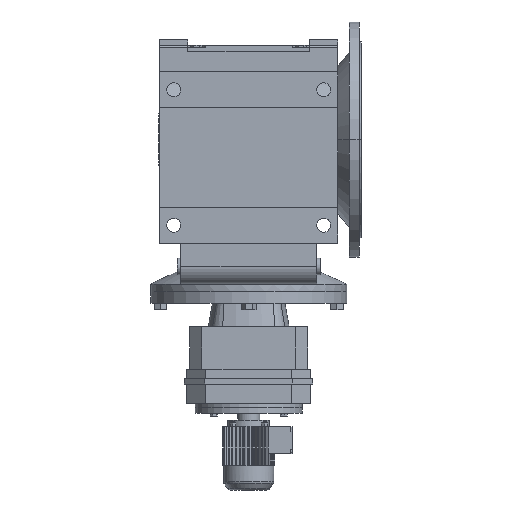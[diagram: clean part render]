
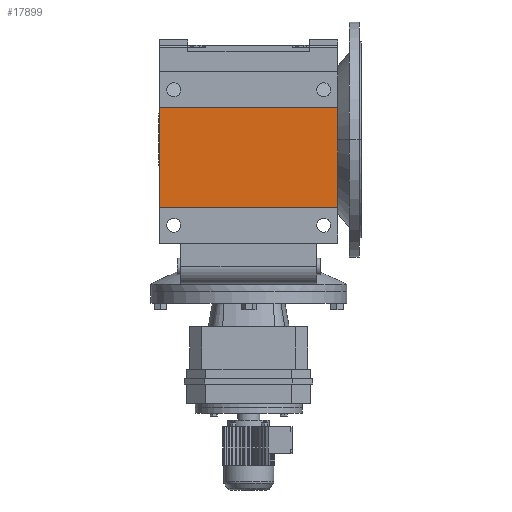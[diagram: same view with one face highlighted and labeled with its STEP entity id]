
A CAD part, front view. The second image highlights one B-rep face of the part: STEP entity #17899.
In plain terms, the highlighted planar face has unit normal (0, -1, 0).
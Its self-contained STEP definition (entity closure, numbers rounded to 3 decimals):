
#8799 = PLANE('',#8800);
#8800 = AXIS2_PLACEMENT_3D('',#8801,#8802,#8803);
#8801 = CARTESIAN_POINT('',(-250.,-380.25,226.));
#8802 = DIRECTION('',(1.,0.,0.));
#8803 = DIRECTION('',(0.,0.,-1.));
#12217 = VERTEX_POINT('',#12218);
#12218 = CARTESIAN_POINT('',(-250.,-434.25,-190.));
#12232 = PLANE('',#12233);
#12233 = AXIS2_PLACEMENT_3D('',#12234,#12235,#12236);
#12234 = CARTESIAN_POINT('',(250.,-434.25,-190.));
#12235 = DIRECTION('',(0.,0.,-1.));
#12236 = DIRECTION('',(-1.,0.,0.));
#12244 = EDGE_CURVE('',#12245,#12217,#12247,.T.);
#12245 = VERTEX_POINT('',#12246);
#12246 = CARTESIAN_POINT('',(-250.,-434.25,90.));
#12247 = SURFACE_CURVE('',#12248,(#12252,#12259),.PCURVE_S1.);
#12248 = LINE('',#12249,#12250);
#12249 = CARTESIAN_POINT('',(-250.,-434.25,90.));
#12250 = VECTOR('',#12251,1.);
#12251 = DIRECTION('',(0.,0.,-1.));
#12252 = PCURVE('',#8799,#12253);
#12253 = DEFINITIONAL_REPRESENTATION('',(#12254),#12258);
#12254 = LINE('',#12255,#12256);
#12255 = CARTESIAN_POINT('',(136.,-54.));
#12256 = VECTOR('',#12257,1.);
#12257 = DIRECTION('',(1.,0.));
#12258 = ( GEOMETRIC_REPRESENTATION_CONTEXT(2) 
PARAMETRIC_REPRESENTATION_CONTEXT() REPRESENTATION_CONTEXT('2D SPACE',''
  ) );
#12259 = PCURVE('',#12260,#12265);
#12260 = PLANE('',#12261);
#12261 = AXIS2_PLACEMENT_3D('',#12262,#12263,#12264);
#12262 = CARTESIAN_POINT('',(-190.5,-434.25,230.));
#12263 = DIRECTION('',(0.,-1.,0.));
#12264 = DIRECTION('',(0.,0.,-1.));
#12265 = DEFINITIONAL_REPRESENTATION('',(#12266),#12270);
#12266 = LINE('',#12267,#12268);
#12267 = CARTESIAN_POINT('',(140.,-59.5));
#12268 = VECTOR('',#12269,1.);
#12269 = DIRECTION('',(1.,0.));
#12270 = ( GEOMETRIC_REPRESENTATION_CONTEXT(2) 
PARAMETRIC_REPRESENTATION_CONTEXT() REPRESENTATION_CONTEXT('2D SPACE',''
  ) );
#12288 = PLANE('',#12289);
#12289 = AXIS2_PLACEMENT_3D('',#12290,#12291,#12292);
#12290 = CARTESIAN_POINT('',(250.,-434.25,90.));
#12291 = DIRECTION('',(0.,0.,1.));
#12292 = DIRECTION('',(1.,0.,0.));
#12757 = PLANE('',#12758);
#12758 = AXIS2_PLACEMENT_3D('',#12759,#12760,#12761);
#12759 = CARTESIAN_POINT('',(250.,-380.25,226.));
#12760 = DIRECTION('',(1.,0.,0.));
#12761 = DIRECTION('',(0.,0.,-1.));
#17393 = VERTEX_POINT('',#17394);
#17394 = CARTESIAN_POINT('',(250.,-434.25,-190.));
#17415 = EDGE_CURVE('',#17393,#12217,#17416,.T.);
#17416 = SURFACE_CURVE('',#17417,(#17421,#17428),.PCURVE_S1.);
#17417 = LINE('',#17418,#17419);
#17418 = CARTESIAN_POINT('',(250.,-434.25,-190.));
#17419 = VECTOR('',#17420,1.);
#17420 = DIRECTION('',(-1.,0.,0.));
#17421 = PCURVE('',#12232,#17422);
#17422 = DEFINITIONAL_REPRESENTATION('',(#17423),#17427);
#17423 = LINE('',#17424,#17425);
#17424 = CARTESIAN_POINT('',(0.,0.));
#17425 = VECTOR('',#17426,1.);
#17426 = DIRECTION('',(1.,0.));
#17427 = ( GEOMETRIC_REPRESENTATION_CONTEXT(2) 
PARAMETRIC_REPRESENTATION_CONTEXT() REPRESENTATION_CONTEXT('2D SPACE',''
  ) );
#17428 = PCURVE('',#12260,#17429);
#17429 = DEFINITIONAL_REPRESENTATION('',(#17430),#17434);
#17430 = LINE('',#17431,#17432);
#17431 = CARTESIAN_POINT('',(420.,440.5));
#17432 = VECTOR('',#17433,1.);
#17433 = DIRECTION('',(0.,-1.));
#17434 = ( GEOMETRIC_REPRESENTATION_CONTEXT(2) 
PARAMETRIC_REPRESENTATION_CONTEXT() REPRESENTATION_CONTEXT('2D SPACE',''
  ) );
#17710 = EDGE_CURVE('',#17711,#12245,#17713,.T.);
#17711 = VERTEX_POINT('',#17712);
#17712 = CARTESIAN_POINT('',(250.,-434.25,90.));
#17713 = SURFACE_CURVE('',#17714,(#17718,#17725),.PCURVE_S1.);
#17714 = LINE('',#17715,#17716);
#17715 = CARTESIAN_POINT('',(250.,-434.25,90.));
#17716 = VECTOR('',#17717,1.);
#17717 = DIRECTION('',(-1.,0.,0.));
#17718 = PCURVE('',#12288,#17719);
#17719 = DEFINITIONAL_REPRESENTATION('',(#17720),#17724);
#17720 = LINE('',#17721,#17722);
#17721 = CARTESIAN_POINT('',(0.,0.));
#17722 = VECTOR('',#17723,1.);
#17723 = DIRECTION('',(-1.,0.));
#17724 = ( GEOMETRIC_REPRESENTATION_CONTEXT(2) 
PARAMETRIC_REPRESENTATION_CONTEXT() REPRESENTATION_CONTEXT('2D SPACE',''
  ) );
#17725 = PCURVE('',#12260,#17726);
#17726 = DEFINITIONAL_REPRESENTATION('',(#17727),#17731);
#17727 = LINE('',#17728,#17729);
#17728 = CARTESIAN_POINT('',(140.,440.5));
#17729 = VECTOR('',#17730,1.);
#17730 = DIRECTION('',(0.,-1.));
#17731 = ( GEOMETRIC_REPRESENTATION_CONTEXT(2) 
PARAMETRIC_REPRESENTATION_CONTEXT() REPRESENTATION_CONTEXT('2D SPACE',''
  ) );
#17899 = ADVANCED_FACE('',(#17900),#12260,.T.);
#17900 = FACE_BOUND('',#17901,.T.);
#17901 = EDGE_LOOP('',(#17902,#17903,#17904,#17925));
#17902 = ORIENTED_EDGE('',*,*,#12244,.T.);
#17903 = ORIENTED_EDGE('',*,*,#17415,.F.);
#17904 = ORIENTED_EDGE('',*,*,#17905,.F.);
#17905 = EDGE_CURVE('',#17711,#17393,#17906,.T.);
#17906 = SURFACE_CURVE('',#17907,(#17911,#17918),.PCURVE_S1.);
#17907 = LINE('',#17908,#17909);
#17908 = CARTESIAN_POINT('',(250.,-434.25,90.));
#17909 = VECTOR('',#17910,1.);
#17910 = DIRECTION('',(0.,0.,-1.));
#17911 = PCURVE('',#12260,#17912);
#17912 = DEFINITIONAL_REPRESENTATION('',(#17913),#17917);
#17913 = LINE('',#17914,#17915);
#17914 = CARTESIAN_POINT('',(140.,440.5));
#17915 = VECTOR('',#17916,1.);
#17916 = DIRECTION('',(1.,0.));
#17917 = ( GEOMETRIC_REPRESENTATION_CONTEXT(2) 
PARAMETRIC_REPRESENTATION_CONTEXT() REPRESENTATION_CONTEXT('2D SPACE',''
  ) );
#17918 = PCURVE('',#12757,#17919);
#17919 = DEFINITIONAL_REPRESENTATION('',(#17920),#17924);
#17920 = LINE('',#17921,#17922);
#17921 = CARTESIAN_POINT('',(136.,-54.));
#17922 = VECTOR('',#17923,1.);
#17923 = DIRECTION('',(1.,0.));
#17924 = ( GEOMETRIC_REPRESENTATION_CONTEXT(2) 
PARAMETRIC_REPRESENTATION_CONTEXT() REPRESENTATION_CONTEXT('2D SPACE',''
  ) );
#17925 = ORIENTED_EDGE('',*,*,#17710,.T.);
